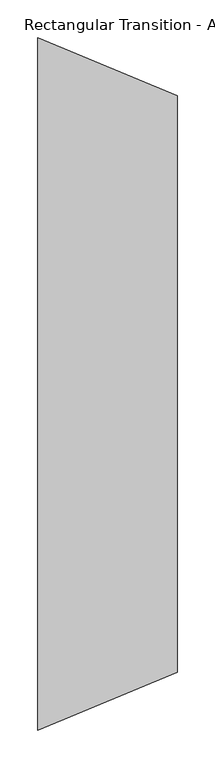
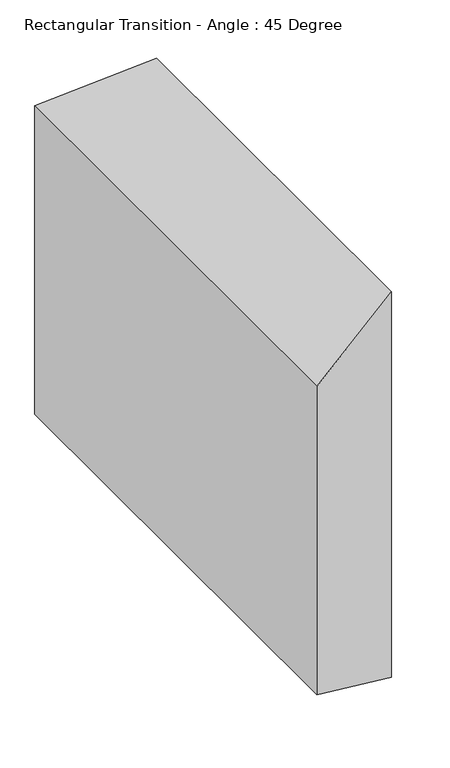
"""IFC4 building model written with IfcOpenShell, lengths in millimetres: duct fitting geometry, Rectangular Transition - Angle : 45 Degree."""

from ifc_helpers import new_model, si_unit, origin, place, context, project, spatial, faceted_brep, source, transform, mapped, element, save


def rectangular_transition_angle_45_degree_c154c6b5(model_context):
    return source(origin(), model_context, "Body", "Brep", [
        faceted_brep([(183.9630735, -381.0, 381.0), (183.9630735, -381.0, -381.0), (183.9630735, 381.0, -381.0), (183.9630735, 381.0, 381.0), (0.0, -457.2, 304.8), (0.0, 457.2, 304.8), (0.0, 457.2, -304.8), (0.0, -457.2, -304.8)], [[[0, 1, 2, 3]], [[4, 5, 6, 7]], [[4, 7, 1, 0]], [[7, 6, 2, 1]], [[6, 5, 3, 2]], [[5, 4, 0, 3]]]),
    ])


if __name__ == "__main__":
    model = new_model("IFC4")
    model_context = context("Model", 3, world=origin())
    ifc_project = project(units=[si_unit("LENGTHUNIT", "METRE", prefix="MILLI")], contexts=[model_context])
    site = spatial("IfcSite", under=ifc_project)
    building = spatial("IfcBuilding", under=site)
    placement = place(None, origin())
    rectangular_transition_angle_45_degree_shape = rectangular_transition_angle_45_degree_c154c6b5(model_context)
    element("IfcDuctFitting", 1, ObjectType="Rectangular Transition - Angle : 45 Degree", at=placement, inside=building, context=model_context, shape_type="MappedRepresentation", body=[
        mapped(rectangular_transition_angle_45_degree_shape, transform((0.0, 0.0, 0.0), x_axis=(1.0, 0.0, 0.0), y_axis=(0.0, 1.0, 0.0), z_axis=(0.0, 0.0, 1.0))),
    ])
    save(model, "model.ifc")
